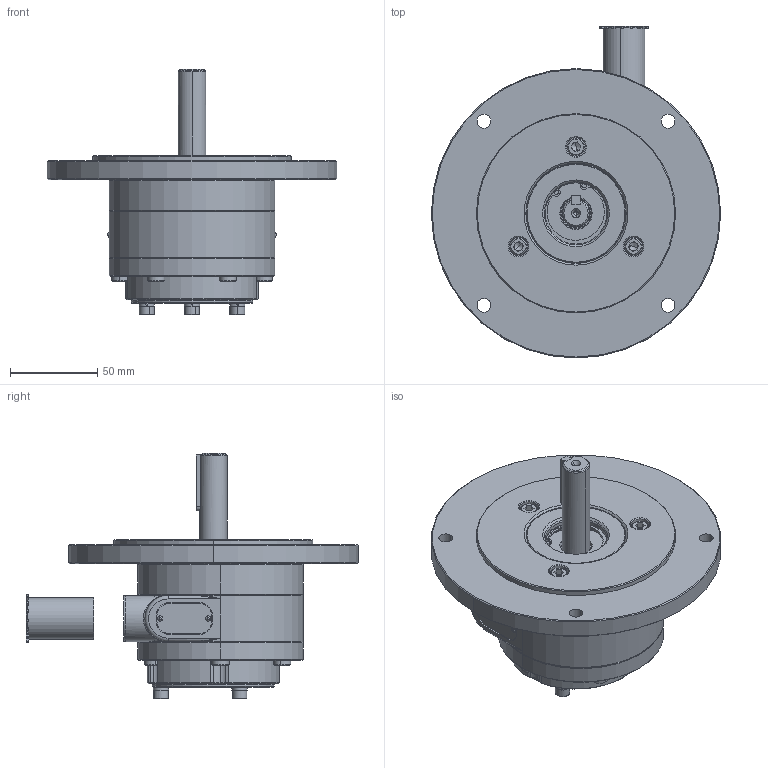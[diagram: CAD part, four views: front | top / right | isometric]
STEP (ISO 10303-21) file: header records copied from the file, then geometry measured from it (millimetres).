
FILE_DESCRIPTION (( 'STEP AP214' ), '1' );
FILE_NAME ('2VMN-SGI (22-04-26).STEP', '2026-04-22T09:24:48', ( '' ), ( '' ), 'SwSTEP 2.0', 'SolidWorks 2017', '' );
FILE_SCHEMA (( 'AUTOMOTIVE_DESIGN' ));
Length unit declared in the file: millimetre
Products named in the file (2): 2VMN-SGI (22-04-26)
Bounding box: 166 x 190.5 x 140.85 mm (x, y, z)
Volume: 483273.8 mm3; surface area: 165095.9 mm2
Topology: 37 solids, 37 shells, 1182 faces, 2936 edges, 1811 vertices
Faces by surface type: plane 467, cylinder 371, cone 242, torus 78, bspline 24
Entity records: 52155 total; most frequent: CARTESIAN_POINT 8693, DIRECTION 6529, ORIENTED_EDGE 6036, EDGE_CURVE 3018, AXIS2_PLACEMENT_3D 2520, VERTEX_POINT 1892, VECTOR 1489, LINE 1489
